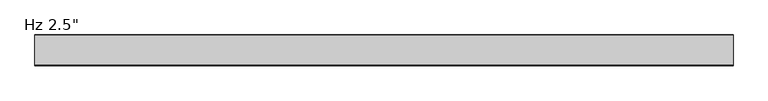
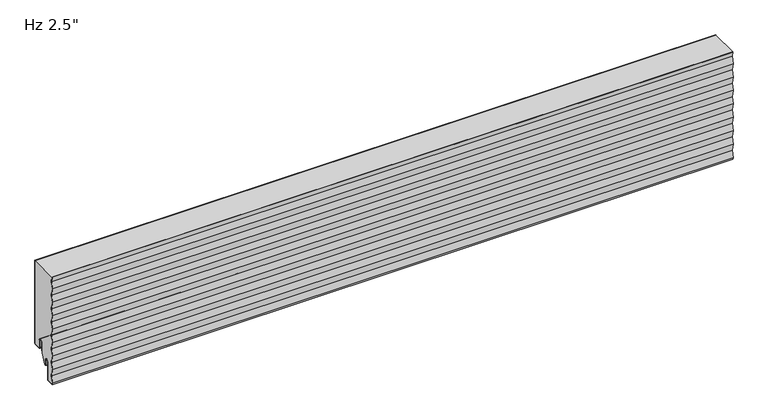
"""IFC4 building model written with IfcOpenShell, lengths in millimetres: plate geometry."""

from ifc_helpers import new_model, si_unit, point, frame, frame_2d, origin, place, context, project, spatial, polyline, circle_curve, trimmed, segment, composite_curve, outline, extrude, source, transform, mapped, element, save


def plate_d8e40084(model_context):
    return source(origin(), model_context, "Body", "SweptSolid", [
        extrude(outline(composite_curve([segment(trimmed(circle_curve(frame_2d((-21.43125, 19.05)), 4.96875), [point((-16.4625, 19.05))], [point((-26.4, 19.05))], True, "CARTESIAN"), True, "CONTINUOUS"), segment(polyline([(-26.4, 19.05), (-26.4, -3.1323422), (-36.5157227, -23.01875), (-38.1, -23.01875), (-38.1, -13.5080174), (-38.89375, -13.5080174), (-38.6875, -11.9205174)]), True, "CONTINUOUS"), segment(trimmed(circle_curve(frame_2d((-43.65625, -11.9205174)), 4.96875), [point((-38.6875, -11.9205174))], [point((-48.625, -11.9205174))], True, "CARTESIAN"), True, "CONTINUOUS"), segment(polyline([(-48.625, -11.9205174), (-48.625, -50.1038221)]), True, "CONTINUOUS"), segment(trimmed(circle_curve(frame_2d((-50.00625, -50.1038221)), 1.38125), [point((-48.625, -50.1038221))], [point((-49.933961, -51.4831791))], False, "CARTESIAN"), True, "CONTINUOUS"), segment(polyline([(-49.933961, -51.4831791), (-63.1062471, -52.1735094), (-63.6378194, -48.8511825), (-61.1994194, -33.6111825), (-63.6378194, -18.3711825), (-61.1994194, -3.1311825), (-63.6378194, 12.1088175), (-61.1994194, 27.3488175), (-63.6378194, 42.5888175), (-61.1994194, 57.8288175), (-63.6378194, 73.0688175), (-61.1994194, 88.3088175), (-63.6378194, 103.5488175), (-61.1994194, 118.7888175), (-63.6378194, 134.0288175), (-61.1994194, 149.2688175), (-63.6378194, 164.5088175), (-61.1994194, 179.7488175), (-62.8716086, 190.2), (-1.0, 190.2), (-1.0, 3.175)]), True, "CONTINUOUS"), segment(trimmed(circle_curve(frame_2d((-2.38125, 3.175)), 1.38125), [point((-1.0, 3.175))], [point((-2.38125, 1.79375))], False, "CARTESIAN"), True, "CONTINUOUS"), segment(polyline([(-2.38125, 1.79375), (-15.08125, 1.79375)]), True, "CONTINUOUS"), segment(trimmed(circle_curve(frame_2d((-15.08125, 3.175)), 1.38125), [point((-15.08125, 1.79375))], [point((-16.4625, 3.175))], False, "CARTESIAN"), True, "CONTINUOUS"), segment(polyline([(-16.4625, 3.175), (-16.4625, 19.05)]), True, "CONTINUOUS")], self_intersect=False)), frame((-730.0, 0.0, 0.0), z_axis=(1.0, 0.0, 0.0), x_axis=(0.0, 1.0, 0.0)), (0.0, 0.0, 1.0), 1460.0),
        extrude(outline(composite_curve([segment(polyline([(-25.4, 0.79375), (-26.4, 0.79375), (-26.4, 19.05)]), True, "CONTINUOUS"), segment(trimmed(circle_curve(frame_2d((-21.43125, 19.05)), 4.96875), [point((-26.4, 19.05))], [point((-16.4625, 19.05))], False, "CARTESIAN"), True, "CONTINUOUS"), segment(polyline([(-16.4625, 19.05), (-16.4625, 3.175)]), True, "CONTINUOUS"), segment(trimmed(circle_curve(frame_2d((-15.08125, 3.175)), 1.38125), [point((-16.4625, 3.175))], [point((-15.08125, 1.79375))], True, "CARTESIAN"), True, "CONTINUOUS"), segment(polyline([(-15.08125, 1.79375), (-2.38125, 1.79375)]), True, "CONTINUOUS"), segment(trimmed(circle_curve(frame_2d((-2.38125, 3.175)), 1.38125), [point((-2.38125, 1.79375))], [point((-1.0, 3.175))], True, "CARTESIAN"), True, "CONTINUOUS"), segment(polyline([(-1.0, 3.175), (-1.0, 190.2), (0.0, 190.2), (0.0, 3.175)]), True, "CONTINUOUS"), segment(trimmed(circle_curve(frame_2d((-2.38125, 3.175)), 2.38125), [point((0.0, 3.175))], [point((-2.38125, 0.79375))], False, "CARTESIAN"), True, "CONTINUOUS"), segment(polyline([(-2.38125, 0.79375), (-15.08125, 0.79375)]), True, "CONTINUOUS"), segment(trimmed(circle_curve(frame_2d((-15.08125, 3.175)), 2.38125), [point((-15.08125, 0.79375))], [point((-17.4625, 3.175))], False, "CARTESIAN"), True, "CONTINUOUS"), segment(polyline([(-17.4625, 3.175), (-17.4625, 19.05)]), True, "CONTINUOUS"), segment(trimmed(circle_curve(frame_2d((-21.43125, 19.05)), 3.96875), [point((-17.4625, 19.05))], [point((-25.4, 19.05))], True, "CARTESIAN"), True, "CONTINUOUS"), segment(polyline([(-25.4, 19.05), (-25.4, 0.79375)]), True, "CONTINUOUS")], self_intersect=False)), frame((-730.0, 0.0, 0.0), z_axis=(1.0, 0.0, 0.0), x_axis=(0.0, 1.0, 0.0)), (0.0, 0.0, 1.0), 1460.0),
        extrude(outline(composite_curve([segment(trimmed(circle_curve(frame_2d((-38.89375, -23.2314549)), 0.79375), [point((-38.1, -23.2314549))], [point((-39.6875, -23.2314549))], False, "CARTESIAN"), True, "CONTINUOUS"), segment(polyline([(-39.6875, -23.2314549), (-39.6875, -11.9205174)]), True, "CONTINUOUS"), segment(trimmed(circle_curve(frame_2d((-43.65625, -11.9205174)), 3.96875), [point((-39.6875, -11.9205174))], [point((-47.625, -11.9205174))], True, "CARTESIAN"), True, "CONTINUOUS"), segment(polyline([(-47.625, -11.9205174), (-47.625, -50.1038221)]), True, "CONTINUOUS"), segment(trimmed(circle_curve(frame_2d((-50.00625, -50.1038221)), 2.38125), [point((-47.625, -50.1038221))], [point((-49.881625, -52.4818086))], False, "CARTESIAN"), True, "CONTINUOUS"), segment(polyline([(-49.881625, -52.4818086), (-64.0543553, -53.22457), (-64.7509395, -48.8709186), (-62.3125395, -33.6309186), (-64.7509395, -18.3909186), (-62.3125395, -3.1509186), (-64.7509395, 12.0890814), (-62.3125395, 27.3290814), (-64.7509395, 42.5690814), (-62.3125395, 57.8090814), (-64.7509395, 73.0490814), (-62.3125395, 88.2890814), (-64.7509395, 103.5290814), (-62.3125395, 118.7690814), (-64.7509395, 134.0090814), (-62.3125395, 149.2490814), (-64.7509395, 164.4890814), (-62.3125395, 179.7290814), (-63.9878865, 190.2), (-62.9751674, 190.2), (-61.2998204, 179.7290814), (-63.7382204, 164.4890814), (-61.2998204, 149.2490814), (-63.7382204, 134.0090814), (-61.2998204, 118.7690814), (-63.7382204, 103.5290814), (-61.2998204, 88.2890814), (-63.7382204, 73.0490814), (-61.2998204, 57.8090814), (-63.7382204, 42.5690814), (-61.2998204, 27.3290814), (-63.7382204, 12.0890814), (-61.2998204, -3.1509186), (-63.7382204, -18.3909186), (-61.2998204, -33.6309186), (-63.7382204, -48.8709186), (-63.2089447, -52.1788915), (-49.933961, -51.4831791)]), True, "CONTINUOUS"), segment(trimmed(circle_curve(frame_2d((-50.00625, -50.1038221)), 1.38125), [point((-49.933961, -51.4831791))], [point((-48.625, -50.1038221))], True, "CARTESIAN"), True, "CONTINUOUS"), segment(polyline([(-48.625, -50.1038221), (-48.625, -11.9205174)]), True, "CONTINUOUS"), segment(trimmed(circle_curve(frame_2d((-43.65625, -11.9205174)), 4.96875), [point((-48.625, -11.9205174))], [point((-38.6875, -11.9205174))], False, "CARTESIAN"), True, "CONTINUOUS"), segment(polyline([(-38.6875, -11.9205174), (-38.89375, -13.5080174), (-38.1, -13.5080174), (-38.1, -23.2314549)]), True, "CONTINUOUS")], self_intersect=False)), frame((-730.0, 0.0, 0.0), z_axis=(1.0, 0.0, 0.0), x_axis=(0.0, 1.0, 0.0)), (0.0, 0.0, 1.0), 1460.0),
    ])


if __name__ == "__main__":
    model = new_model("IFC4")
    model_context = context("Model", 3, world=origin())
    ifc_project = project(units=[si_unit("LENGTHUNIT", "METRE", prefix="MILLI")], contexts=[model_context])
    site = spatial("IfcSite", under=ifc_project)
    building = spatial("IfcBuilding", under=site)
    placement = place(None, origin())
    plate_shape = plate_d8e40084(model_context)
    element("IfcPlate", 1, ObjectType="KIP-30-DWHR-R19-CP-Hz-S : Hz 2.5\"", at=placement, inside=building, context=model_context, shape_type="MappedRepresentation", body=[
        mapped(plate_shape, transform((0.0, 0.0, 0.0), x_axis=(1.0, 0.0, 0.0), y_axis=(0.0, 1.0, 0.0), z_axis=(0.0, 0.0, 1.0))),
    ])
    save(model, "model.ifc")
